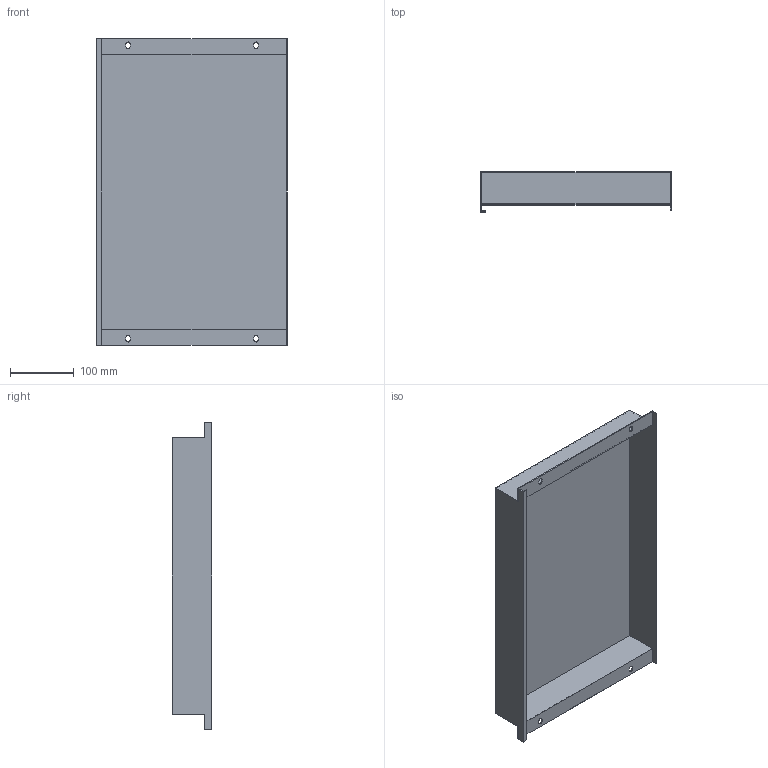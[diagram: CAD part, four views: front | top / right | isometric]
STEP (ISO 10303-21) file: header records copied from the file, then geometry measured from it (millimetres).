
FILE_DESCRIPTION (( 'STEP AP214' ), '1' );
FILE_NAME ('FO-00-PVSU-030-060 Ïëàñòðîí âíóòðåííèé óãëóáëåííûé 300õ600õ50.STEP', '2025-08-26T14:10:37', ( '' ), ( '' ), 'SwSTEP 2.0', 'SolidWorks 2023', '' );
FILE_SCHEMA (( 'AUTOMOTIVE_DESIGN' ));
Length unit declared in the file: millimetre
Products named in the file (1): FO-00-PVSU-030-060 Пластрон внутренний углубленный 300х600х50
Bounding box: 298 x 62.5 x 479 mm (x, y, z)
Volume: 318991.9 mm3; surface area: 458108.2 mm2
Topology: 1 solids, 1 shells, 42 faces, 120 edges, 80 vertices
Faces by surface type: plane 30, cylinder 12
Entity records: 1407 total; most frequent: CARTESIAN_POINT 243, ORIENTED_EDGE 240, DIRECTION 230, EDGE_CURVE 120, LINE 96, VECTOR 96, VERTEX_POINT 80, AXIS2_PLACEMENT_3D 67
